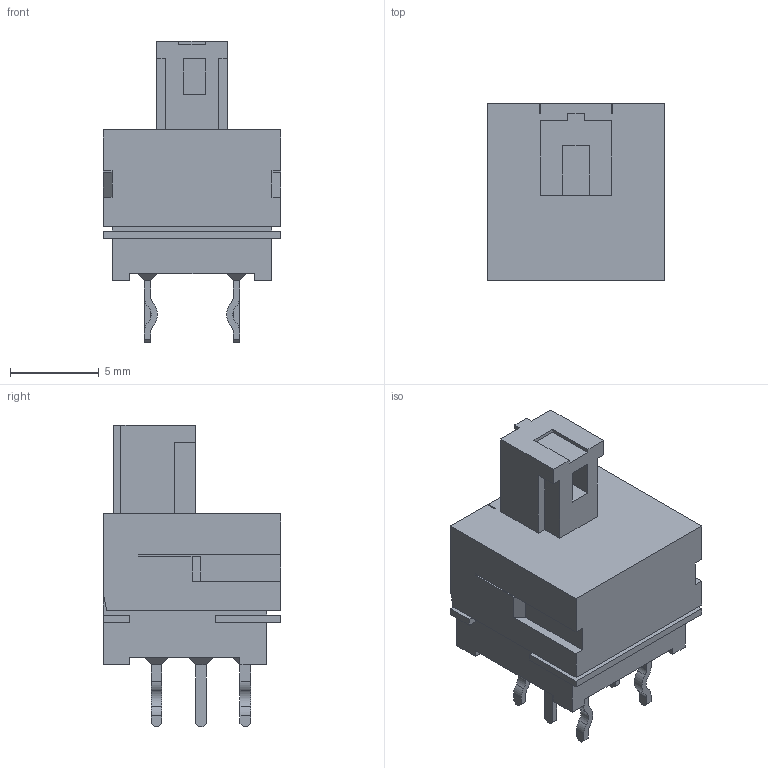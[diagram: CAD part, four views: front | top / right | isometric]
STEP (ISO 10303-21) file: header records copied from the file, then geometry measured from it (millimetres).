
FILE_DESCRIPTION (( 'STEP AP214' ), '1' );
FILE_NAME ('SPPH140100-REVISED.STEP', '2019-12-05T07:38:15', ( '' ), ( '' ), 'SwSTEP 2.0', 'SolidWorks 2019', '' );
FILE_SCHEMA (( 'AUTOMOTIVE_DESIGN' ));
Length unit declared in the file: millimetre
Products named in the file (1): SPPH140100-REVISED
Bounding box: 10 x 10 x 17 mm (x, y, z)
Volume: 846 mm3; surface area: 716.3 mm2
Topology: 1 solids, 1 shells, 188 faces, 508 edges, 330 vertices
Faces by surface type: plane 164, cylinder 24
Entity records: 6915 total; most frequent: CARTESIAN_POINT 1027, ORIENTED_EDGE 1016, DIRECTION 934, EDGE_CURVE 508, LINE 460, VECTOR 460, VERTEX_POINT 330, AXIS2_PLACEMENT_3D 237
